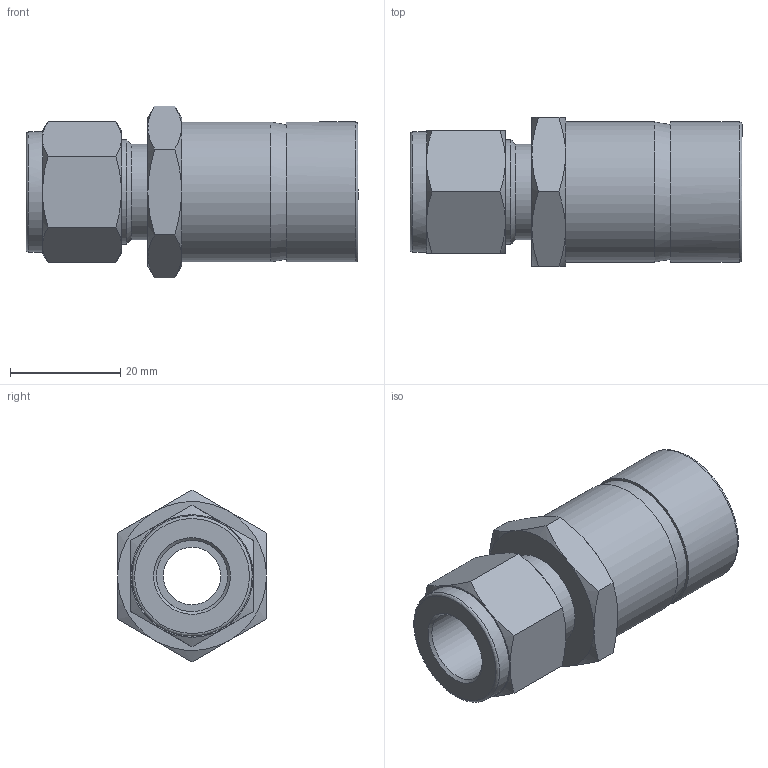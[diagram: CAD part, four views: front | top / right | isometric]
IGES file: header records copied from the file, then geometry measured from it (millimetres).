
Global section: file name: SR-8-16; native system: Autodesk Inventor 2016; preprocessor: unknown; author: DESIGNPC2; date: 20151113.081822; units: millimetre
Bounding box: 60.2 x 27 x 31.18 mm (x, y, z)
Volume: 14668.3 mm3; surface area: 9074 mm2
Topology: 1 solids, 1 shells, 59 faces, 154 edges, 104 vertices
Faces by surface type: bspline 59
